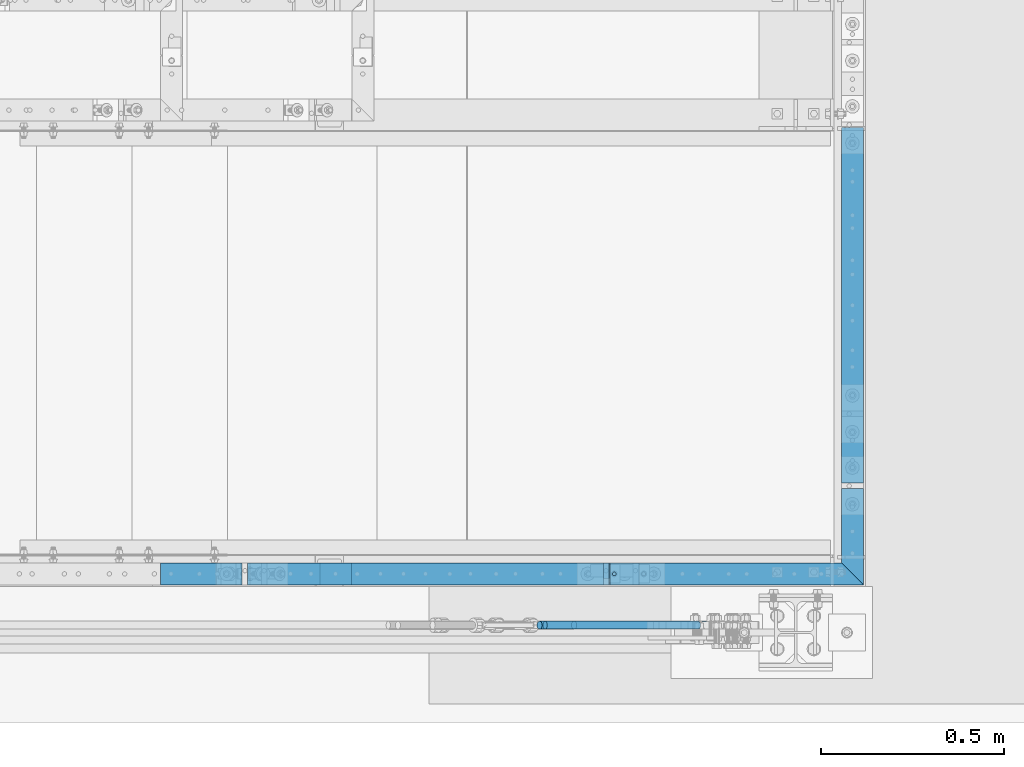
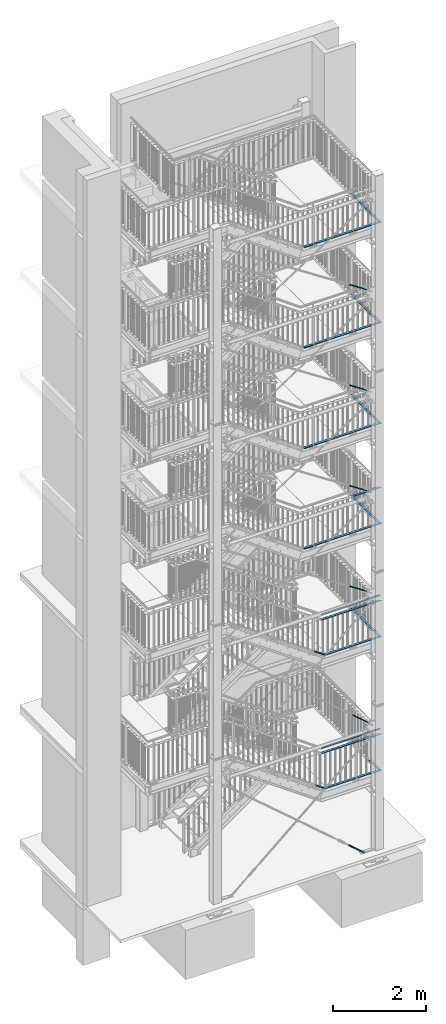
# One storey, part 138 of 821: 36 beams, 8 members, 27 openings.
"""IFC2X3 building model written with IfcOpenShell, lengths in millimetres."""

from ifc_helpers import new_model, entity, si_unit, converted_unit, frame, origin, origin_with_axes, origin_2d, origin_2d_with_axis, place, context, project, spatial, polyline, rectangle, circle, hollow_circle, outline, extrude, clip, halfspace, material, element, save


model = new_model("IFC2X3")

# Units and contexts
model_context = context("Model", 3, precision=1e-09, world=origin_with_axes())
ifc_project = project(units=[si_unit("LENGTHUNIT", "METRE", prefix="MILLI"), si_unit("AREAUNIT", "SQUARE_METRE"), si_unit("VOLUMEUNIT", "CUBIC_METRE"), converted_unit("PLANEANGLEUNIT", "DEGREE", entity("IfcPlaneAngleMeasure", 0.01745329), si_unit("PLANEANGLEUNIT", "RADIAN"), dimensions=[0, 0, 0, 0, 0, 0, 0])], contexts=[model_context])

# Site, building, storey
site_placement = place(None, origin_with_axes())
site = spatial("IfcSite", under=ifc_project, at=site_placement, Name="Cnopf'sche Kinderklinik", CompositionType="ELEMENT")
building_placement = place(site_placement, origin_with_axes())
building = spatial("IfcBuilding", under=site, at=building_placement, Name="Struktur 1", CompositionType="ELEMENT")
storey_placement = place(building_placement, origin_with_axes())
storey = spatial("IfcBuildingStorey", under=building, at=storey_placement, Name="Default Storey", CompositionType="ELEMENT", Elevation=0.0)

# Beam, opening
ifc_material = material(Name="S235JR")
beam_1_placement = place(None, frame((9064.725029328, 4526.736971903, 3194.8526312), z_axis=(1.0, 0.0, 0.0), x_axis=(0.0, 0.0, -1.0)))
beam_1 = element("IfcBeam", 1, at=beam_1_placement, inside=storey, material=ifc_material, Name="Railing_Kneerail_Landing#10", ObjectType="Railing_Kneerail_Landing#10", context=model_context, shape_type="Clipping", body=[
    clip(extrude(rectangle(XDim=10.0, YDim=60.0, at=origin_2d()), origin(), (0.0, 0.0, -1.0), 624.05092), halfspace(frame((3194.8526312, 2247.487508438, -2290.500548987), z_axis=(0.0, -0.707106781, -0.707106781), x_axis=(0.0, -0.707106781, 0.707106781)), True)),
])
opening_1_placement = place(beam_1_placement, frame((5.5, 0.0, -612.050920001), z_axis=(-1.0, 0.0, 0.0), x_axis=(0.0, 0.0, 1.0)))
element("IfcOpeningElement", 2, at=opening_1_placement, cuts=beam_1, ObjectType="Opening", context=model_context, shape_type="SweptSolid", body=[
    extrude(circle(Radius=5.001, at=origin_2d_with_axis()), origin(), (0.0, 0.0, 1.0), 11.0),
])

# Members
for number, where, z_axis, x_axis in (
    (3, (8547.510615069, 4386.736971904, 334.785043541), (-0.757867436, 0.0, 0.652408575), (-0.652408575, 0.0, -0.757867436)),
    (4, (8640.321727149, 4386.736971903, 3708.074383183), (-0.755906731, 0.0, 0.654679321), (-0.654679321, 0.0, -0.755906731)),
    (5, (8601.628734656, 4386.736971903, 7158.990731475), (-0.83600607, 0.0, 0.548720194), (-0.548720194, 0.0, -0.83600607)),
    (6, (8601.507201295, 4386.736971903, 9790.805366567), (-0.836491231, 0.0, 0.547980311), (-0.547980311, 0.0, -0.836491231)),
    (7, (8601.719606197, 4386.736971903, 12418.129336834), (-0.835719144, 0.0, 0.549157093), (-0.549157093, 0.0, -0.835719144)),
    (8, (8601.264681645, 4386.736971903, 15052.435320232), (-0.837153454, 0.0, 0.546968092), (-0.546968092, 0.0, -0.837153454)),
):
    element("IfcMember", number, at=place(None, frame(where, z_axis=z_axis, x_axis=x_axis)), inside=storey, material=ifc_material, Name="-", ObjectType="-", context=model_context, shape_type="SweptSolid", body=[
        extrude(circle(Radius=11.0, at=origin_2d()), origin(), (0.0, 0.0, 1.0), 500.0),
    ])

# Beam
beam_2_placement = place(None, frame((9021.713402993, 4955.774795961, 2246.0526312), z_axis=(0.0, 1.0, 0.0), x_axis=(0.0, 0.0, -1.0)))
element("IfcBeam", 9, at=beam_2_placement, inside=storey, material=ifc_material, Name="Railing_Kneerail_Landing#9", ObjectType="Railing_Kneerail_Landing#9", context=model_context, shape_type="Clipping", body=[
    clip(extrude(rectangle(XDim=10.0, YDim=60.0, at=origin_2d()), origin(), (0.0, 0.0, -1.0), 472.049450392), halfspace(frame((2246.0526312, 2247.487508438, 1818.451098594), z_axis=(0.0, -0.707106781, 0.707106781), x_axis=(0.0, 0.707106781, 0.707106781)), True)),
])

# Beam, opening
beam_3_placement = place(None, frame((9064.725029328, 4526.736971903, 2246.0526312), z_axis=(1.0, 0.0, 0.0), x_axis=(0.0, 0.0, -1.0)))
beam_3 = element("IfcBeam", 10, at=beam_3_placement, inside=storey, material=ifc_material, Name="Railing_Kneerail_Landing#10", ObjectType="Railing_Kneerail_Landing#10", context=model_context, shape_type="Clipping", body=[
    clip(extrude(rectangle(XDim=10.0, YDim=60.0, at=origin_2d()), origin(), (0.0, 0.0, -1.0), 624.05092), halfspace(frame((2246.0526312, 2247.487508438, -2290.500548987), z_axis=(0.0, -0.707106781, -0.707106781), x_axis=(0.0, -0.707106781, 0.707106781)), True)),
])
opening_2_placement = place(beam_3_placement, frame((5.5, 0.0, -612.050920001), z_axis=(-1.0, 0.0, 0.0), x_axis=(0.0, 0.0, 1.0)))
element("IfcOpeningElement", 11, at=opening_2_placement, cuts=beam_3, ObjectType="Opening", context=model_context, shape_type="SweptSolid", body=[
    extrude(circle(Radius=5.001, at=origin_2d_with_axis()), origin(), (0.0, 0.0, 1.0), 11.0),
])

# Beam
beam_4_placement = place(None, frame((8422.674109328, 4526.736971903, 2246.0526312), z_axis=(1.0, 0.0, 0.0), x_axis=(0.0, 0.0, -1.0)))
element("IfcBeam", 12, at=beam_4_placement, inside=storey, material=ifc_material, Name="Railing_Kneerail_Landing#11", ObjectType="Railing_Kneerail_Landing#11", context=model_context, shape_type="SweptSolid", body=[
    extrude(rectangle(XDim=10.0, YDim=60.0, at=origin_2d()), origin(), (0.0, 0.0, -1.0), 767.403817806),
])

# Member
member_1_placement = place(None, frame((7652.370421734, 4526.736971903, 2246.979456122), z_axis=(0.814635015, 0.0, -0.579973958), x_axis=(-0.579973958, 0.0, -0.814635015)))
element("IfcMember", 13, at=member_1_placement, inside=storey, material=ifc_material, Name="Railing_Kneerail_Stair#12", ObjectType="Railing_Kneerail_Stair#12", context=model_context, shape_type="SweptSolid", body=[
    extrude(rectangle(XDim=10.0, YDim=60.0, at=origin_2d()), origin(), (0.0, 0.0, -1.0), 276.042099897),
])

# Beam, openings
beam_5_placement = place(None, frame((9021.713402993, 5751.736114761, 5739.8947367), z_axis=(0.0, 1.0, 0.0), x_axis=(0.0, 0.0, -1.0)))
beam_5 = element("IfcBeam", 14, at=beam_5_placement, inside=storey, material=ifc_material, Name="Railing_Kneerail_Landing#10", ObjectType="Railing_Kneerail_Landing#10", context=model_context, shape_type="SweptSolid", body=[
    extrude(rectangle(XDim=10.0, YDim=60.0, at=origin_2d()), origin(), (0.0, 0.0, -1.0), 985.000142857),
])
opening_3_placement = place(beam_5_placement, frame((60.0, 0.0, -985.000142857), z_axis=(-1.0, 0.0, 0.0), x_axis=(0.0, -1.0, 0.0)))
element("IfcOpeningElement", 15, at=opening_3_placement, cuts=beam_5, ObjectType="Opening", context=model_context, shape_type="SweptSolid", body=[
    extrude(outline(polyline([(-30.001, 977.499142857), (30.001, 977.499142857), (30.001, 992.501142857), (-30.001, 992.501142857), (-30.001, 977.499142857)])), origin(), (0.0, 0.0, 1.0), 120.0),
])
opening_4_placement = place(beam_5_placement, frame((60.0, 0.0, -985.000142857), z_axis=(-1.0, 0.0, 0.0), x_axis=(0.0, -1.0, 0.0)))
element("IfcOpeningElement", 16, at=opening_4_placement, cuts=beam_5, ObjectType="Opening", context=model_context, shape_type="SweptSolid", body=[
    extrude(outline(polyline([(-30.001, -7.501), (30.001, -7.501), (30.001, 7.501), (-30.001, 7.501), (-30.001, -7.501)])), origin(), (0.0, 0.0, 1.0), 120.0),
])

# Beam
beam_6_placement = place(None, frame((9021.713402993, 4759.235971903, 5739.8947367), z_axis=(0.0, 1.0, 0.0), x_axis=(0.0, 0.0, -1.0)))
element("IfcBeam", 17, at=beam_6_placement, inside=storey, material=ifc_material, Name="Railing_Kneerail_Landing#11", ObjectType="Railing_Kneerail_Landing#11", context=model_context, shape_type="Clipping", body=[
    clip(extrude(rectangle(XDim=10.0, YDim=60.0, at=origin_2d()), origin(), (0.0, 0.0, -1.0), 275.510626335), halfspace(frame((5739.8947367, 2247.487508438, 2014.989922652), z_axis=(0.0, -0.707106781, 0.707106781), x_axis=(0.0, 0.707106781, 0.707106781)), True)),
])

# Beam, opening
beam_7_placement = place(None, frame((9064.725029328, 4526.736971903, 5739.8947367), z_axis=(1.0, 0.0, 0.0), x_axis=(0.0, 0.0, -1.0)))
beam_7 = element("IfcBeam", 18, at=beam_7_placement, inside=storey, material=ifc_material, Name="Railing_Kneerail_Landing#12", ObjectType="Railing_Kneerail_Landing#12", context=model_context, shape_type="Clipping", body=[
    clip(extrude(rectangle(XDim=10.0, YDim=60.0, at=origin_2d()), origin(), (0.0, 0.0, -1.0), 704.432769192), halfspace(frame((5739.8947367, 2247.487508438, -2290.500548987), z_axis=(0.0, -0.707106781, -0.707106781), x_axis=(0.0, -0.707106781, 0.707106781)), True)),
])
opening_5_placement = place(beam_7_placement, frame((5.5, 0.0, -692.432769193), z_axis=(-1.0, 0.0, 0.0), x_axis=(0.0, 0.0, 1.0)))
element("IfcOpeningElement", 19, at=opening_5_placement, cuts=beam_7, ObjectType="Opening", context=model_context, shape_type="SweptSolid", body=[
    extrude(circle(Radius=5.001, at=origin_2d_with_axis()), origin(), (0.0, 0.0, 1.0), 11.0),
])

# Beam
beam_8_placement = place(None, frame((8342.292260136, 4526.736971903, 5739.8947367), z_axis=(1.0, 0.0, 0.0), x_axis=(0.0, 0.0, -1.0)))
element("IfcBeam", 20, at=beam_8_placement, inside=storey, material=ifc_material, Name="Railing_Kneerail_Landing#13", ObjectType="Railing_Kneerail_Landing#13", context=model_context, shape_type="SweptSolid", body=[
    extrude(rectangle(XDim=10.0, YDim=60.0, at=origin_2d()), origin(), (0.0, 0.0, -1.0), 686.538919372),
])

# Member
member_2_placement = place(None, frame((7652.877699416, 4526.736971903, 5740.804420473), z_axis=(0.818063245, 0.0, -0.57512827), x_axis=(-0.57512827, 0.0, -0.818063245)))
element("IfcMember", 21, at=member_2_placement, inside=storey, material=ifc_material, Name="Railing_Kneerail_Stair#14", ObjectType="Railing_Kneerail_Stair#14", context=model_context, shape_type="SweptSolid", body=[
    extrude(rectangle(XDim=10.0, YDim=60.0, at=origin_2d()), origin(), (0.0, 0.0, -1.0), 339.472458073),
])

# Beam, openings
beam_9_placement = place(None, frame((9021.713402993, 5751.736114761, 8701.0), z_axis=(0.0, 1.0, 0.0), x_axis=(0.0, 0.0, -1.0)))
beam_9 = element("IfcBeam", 22, at=beam_9_placement, inside=storey, material=ifc_material, Name="Railing_Kneerail_Landing#10", ObjectType="Railing_Kneerail_Landing#10", context=model_context, shape_type="SweptSolid", body=[
    extrude(rectangle(XDim=10.0, YDim=60.0, at=origin_2d()), origin(), (0.0, 0.0, -1.0), 985.000142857),
])
opening_6_placement = place(beam_9_placement, frame((60.0, 0.0, -985.000142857), z_axis=(-1.0, 0.0, 0.0), x_axis=(0.0, -1.0, 0.0)))
element("IfcOpeningElement", 23, at=opening_6_placement, cuts=beam_9, ObjectType="Opening", context=model_context, shape_type="SweptSolid", body=[
    extrude(outline(polyline([(-30.001, 977.499142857), (30.001, 977.499142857), (30.001, 992.501142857), (-30.001, 992.501142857), (-30.001, 977.499142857)])), origin(), (0.0, 0.0, 1.0), 120.0),
])
opening_7_placement = place(beam_9_placement, frame((60.0, 0.0, -985.000142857), z_axis=(-1.0, 0.0, 0.0), x_axis=(0.0, -1.0, 0.0)))
element("IfcOpeningElement", 24, at=opening_7_placement, cuts=beam_9, ObjectType="Opening", context=model_context, shape_type="SweptSolid", body=[
    extrude(outline(polyline([(-30.001, -7.501), (30.001, -7.501), (30.001, 7.501), (-30.001, 7.501), (-30.001, -7.501)])), origin(), (0.0, 0.0, 1.0), 120.0),
])

# Beam
beam_10_placement = place(None, frame((9021.713402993, 4759.235971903, 8701.0), z_axis=(0.0, 1.0, 0.0), x_axis=(0.0, 0.0, -1.0)))
element("IfcBeam", 25, at=beam_10_placement, inside=storey, material=ifc_material, Name="Railing_Kneerail_Landing#11", ObjectType="Railing_Kneerail_Landing#11", context=model_context, shape_type="Clipping", body=[
    clip(extrude(rectangle(XDim=10.0, YDim=60.0, at=origin_2d()), origin(), (0.0, 0.0, -1.0), 275.510626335), halfspace(frame((8701.0, 2247.487508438, 2014.989922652), z_axis=(0.0, -0.707106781, 0.707106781), x_axis=(0.0, 0.707106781, 0.707106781)), True)),
])

# Beam, opening
beam_11_placement = place(None, frame((9064.725029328, 4526.736971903, 8701.0), z_axis=(1.0, 0.0, 0.0), x_axis=(0.0, 0.0, -1.0)))
beam_11 = element("IfcBeam", 26, at=beam_11_placement, inside=storey, material=ifc_material, Name="Railing_Kneerail_Landing#12", ObjectType="Railing_Kneerail_Landing#12", context=model_context, shape_type="Clipping", body=[
    clip(extrude(rectangle(XDim=10.0, YDim=60.0, at=origin_2d()), origin(), (0.0, 0.0, -1.0), 704.432769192), halfspace(frame((8701.0, 2247.487508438, -2290.500548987), z_axis=(0.0, -0.707106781, -0.707106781), x_axis=(0.0, -0.707106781, 0.707106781)), True)),
])
opening_8_placement = place(beam_11_placement, frame((5.5, 0.0, -692.432769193), z_axis=(-1.0, 0.0, 0.0), x_axis=(0.0, 0.0, 1.0)))
element("IfcOpeningElement", 27, at=opening_8_placement, cuts=beam_11, ObjectType="Opening", context=model_context, shape_type="SweptSolid", body=[
    extrude(circle(Radius=5.001, at=origin_2d_with_axis()), origin(), (0.0, 0.0, 1.0), 11.0),
])

# Beam, openings
beam_12_placement = place(None, frame((8349.792260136, 4526.736971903, 8701.0), z_axis=(1.0, 0.0, 0.0), x_axis=(0.0, 0.0, -1.0)))
beam_12 = element("IfcBeam", 28, at=beam_12_placement, inside=storey, material=ifc_material, Name="Railing_Kneerail_Landing#13", ObjectType="Railing_Kneerail_Landing#13", context=model_context, shape_type="SweptSolid", body=[
    extrude(rectangle(XDim=10.0, YDim=60.0, at=origin_2d()), origin(), (0.0, 0.0, -1.0), 985.000142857),
])
opening_9_placement = place(beam_12_placement, frame((60.0, 0.0, -985.000142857), z_axis=(-1.0, 0.0, 0.0), x_axis=(0.0, 0.0, 1.0)))
element("IfcOpeningElement", 29, at=opening_9_placement, cuts=beam_12, ObjectType="Opening", context=model_context, shape_type="SweptSolid", body=[
    extrude(outline(polyline([(977.499142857, 30.001), (977.499142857, -30.001), (992.501142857, -30.001), (992.501142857, 30.001), (977.499142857, 30.001)])), origin(), (0.0, 0.0, 1.0), 120.0),
])
opening_10_placement = place(beam_12_placement, frame((60.0, 0.0, -985.000142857), z_axis=(-1.0, 0.0, 0.0), x_axis=(0.0, 0.0, 1.0)))
element("IfcOpeningElement", 30, at=opening_10_placement, cuts=beam_12, ObjectType="Opening", context=model_context, shape_type="SweptSolid", body=[
    extrude(outline(polyline([(-7.501, 30.001), (-7.501, -30.001), (7.501, -30.001), (7.501, 30.001), (-7.501, 30.001)])), origin(), (0.0, 0.0, 1.0), 120.0),
])

# Beam
beam_13_placement = place(None, frame((7357.292117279, 4526.736971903, 8701.0), z_axis=(1.0, 0.0, 0.0), x_axis=(0.0, 0.0, -1.0)))
element("IfcBeam", 31, at=beam_13_placement, inside=storey, material=ifc_material, Name="Railing_Kneerail_Landing#14", ObjectType="Railing_Kneerail_Landing#14", context=model_context, shape_type="SweptSolid", body=[
    extrude(rectangle(XDim=10.0, YDim=60.0, at=origin_2d()), origin(), (0.0, 0.0, -1.0), 222.603069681),
])

# Beam, openings
beam_14_placement = place(None, frame((9021.713402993, 5751.736114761, 11330.5000003), z_axis=(0.0, 1.0, 0.0), x_axis=(0.0, 0.0, -1.0)))
beam_14 = element("IfcBeam", 32, at=beam_14_placement, inside=storey, material=ifc_material, Name="Railing_Kneerail_Landing#10", ObjectType="Railing_Kneerail_Landing#10", context=model_context, shape_type="SweptSolid", body=[
    extrude(rectangle(XDim=10.0, YDim=60.0, at=origin_2d()), origin(), (0.0, 0.0, -1.0), 985.000142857),
])
opening_11_placement = place(beam_14_placement, frame((60.0, 0.0, -985.000142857), z_axis=(-1.0, 0.0, 0.0), x_axis=(0.0, -1.0, 0.0)))
element("IfcOpeningElement", 33, at=opening_11_placement, cuts=beam_14, ObjectType="Opening", context=model_context, shape_type="SweptSolid", body=[
    extrude(outline(polyline([(-30.001, 977.499142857), (30.001, 977.499142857), (30.001, 992.501142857), (-30.001, 992.501142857), (-30.001, 977.499142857)])), origin(), (0.0, 0.0, 1.0), 120.0),
])
opening_12_placement = place(beam_14_placement, frame((60.0, 0.0, -985.000142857), z_axis=(-1.0, 0.0, 0.0), x_axis=(0.0, -1.0, 0.0)))
element("IfcOpeningElement", 34, at=opening_12_placement, cuts=beam_14, ObjectType="Opening", context=model_context, shape_type="SweptSolid", body=[
    extrude(outline(polyline([(-30.001, -7.501), (30.001, -7.501), (30.001, 7.501), (-30.001, 7.501), (-30.001, -7.501)])), origin(), (0.0, 0.0, 1.0), 120.0),
])

# Beam
beam_15_placement = place(None, frame((9021.713402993, 4759.235971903, 11330.5000003), z_axis=(0.0, 1.0, 0.0), x_axis=(0.0, 0.0, -1.0)))
element("IfcBeam", 35, at=beam_15_placement, inside=storey, material=ifc_material, Name="Railing_Kneerail_Landing#11", ObjectType="Railing_Kneerail_Landing#11", context=model_context, shape_type="Clipping", body=[
    clip(extrude(rectangle(XDim=10.0, YDim=60.0, at=origin_2d()), origin(), (0.0, 0.0, -1.0), 275.510626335), halfspace(frame((11330.5000003, 2247.487508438, 2014.989922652), z_axis=(0.0, -0.707106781, 0.707106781), x_axis=(0.0, 0.707106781, 0.707106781)), True)),
])

# Beam, opening
beam_16_placement = place(None, frame((9064.725029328, 4526.736971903, 11330.5000003), z_axis=(1.0, 0.0, 0.0), x_axis=(0.0, 0.0, -1.0)))
beam_16 = element("IfcBeam", 36, at=beam_16_placement, inside=storey, material=ifc_material, Name="Railing_Kneerail_Landing#12", ObjectType="Railing_Kneerail_Landing#12", context=model_context, shape_type="Clipping", body=[
    clip(extrude(rectangle(XDim=10.0, YDim=60.0, at=origin_2d()), origin(), (0.0, 0.0, -1.0), 704.432769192), halfspace(frame((11330.5000003, 2247.487508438, -2290.500548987), z_axis=(0.0, -0.707106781, -0.707106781), x_axis=(0.0, -0.707106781, 0.707106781)), True)),
])
opening_13_placement = place(beam_16_placement, frame((5.5, 0.0, -692.432769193), z_axis=(-1.0, 0.0, 0.0), x_axis=(0.0, 0.0, 1.0)))
element("IfcOpeningElement", 37, at=opening_13_placement, cuts=beam_16, ObjectType="Opening", context=model_context, shape_type="SweptSolid", body=[
    extrude(circle(Radius=5.001, at=origin_2d_with_axis()), origin(), (0.0, 0.0, 1.0), 11.0),
])

# Beam, openings
beam_17_placement = place(None, frame((8349.792260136, 4526.736971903, 11330.5000003), z_axis=(1.0, 0.0, 0.0), x_axis=(0.0, 0.0, -1.0)))
beam_17 = element("IfcBeam", 38, at=beam_17_placement, inside=storey, material=ifc_material, Name="Railing_Kneerail_Landing#13", ObjectType="Railing_Kneerail_Landing#13", context=model_context, shape_type="SweptSolid", body=[
    extrude(rectangle(XDim=10.0, YDim=60.0, at=origin_2d()), origin(), (0.0, 0.0, -1.0), 985.000142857),
])
opening_14_placement = place(beam_17_placement, frame((60.0, 0.0, -985.000142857), z_axis=(-1.0, 0.0, 0.0), x_axis=(0.0, 0.0, 1.0)))
element("IfcOpeningElement", 39, at=opening_14_placement, cuts=beam_17, ObjectType="Opening", context=model_context, shape_type="SweptSolid", body=[
    extrude(outline(polyline([(977.499142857, 30.001), (977.499142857, -30.001), (992.501142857, -30.001), (992.501142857, 30.001), (977.499142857, 30.001)])), origin(), (0.0, 0.0, 1.0), 120.0),
])
opening_15_placement = place(beam_17_placement, frame((60.0, 0.0, -985.000142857), z_axis=(-1.0, 0.0, 0.0), x_axis=(0.0, 0.0, 1.0)))
element("IfcOpeningElement", 40, at=opening_15_placement, cuts=beam_17, ObjectType="Opening", context=model_context, shape_type="SweptSolid", body=[
    extrude(outline(polyline([(-7.501, 30.001), (-7.501, -30.001), (7.501, -30.001), (7.501, 30.001), (-7.501, 30.001)])), origin(), (0.0, 0.0, 1.0), 120.0),
])

# Beam
beam_18_placement = place(None, frame((7357.292117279, 4526.736971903, 11330.5000003), z_axis=(1.0, 0.0, 0.0), x_axis=(0.0, 0.0, -1.0)))
element("IfcBeam", 41, at=beam_18_placement, inside=storey, material=ifc_material, Name="Railing_Kneerail_Landing#14", ObjectType="Railing_Kneerail_Landing#14", context=model_context, shape_type="SweptSolid", body=[
    extrude(rectangle(XDim=10.0, YDim=60.0, at=origin_2d()), origin(), (0.0, 0.0, -1.0), 222.532675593),
])

# Beam, openings
beam_19_placement = place(None, frame((9021.713402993, 5751.73611476, 13961.5000001), z_axis=(0.0, 1.0, 0.0), x_axis=(0.0, 0.0, -1.0)))
beam_19 = element("IfcBeam", 42, at=beam_19_placement, inside=storey, material=ifc_material, Name="Railing_Kneerail_Landing#10", ObjectType="Railing_Kneerail_Landing#10", context=model_context, shape_type="SweptSolid", body=[
    extrude(rectangle(XDim=10.0, YDim=60.0, at=origin_2d()), origin(), (0.0, 0.0, -1.0), 985.000142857),
])
opening_16_placement = place(beam_19_placement, frame((60.0, 0.0, -985.000142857), z_axis=(-1.0, 0.0, 0.0), x_axis=(0.0, -1.0, 0.0)))
element("IfcOpeningElement", 43, at=opening_16_placement, cuts=beam_19, ObjectType="Opening", context=model_context, shape_type="SweptSolid", body=[
    extrude(outline(polyline([(-30.001, 977.499142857), (30.001, 977.499142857), (30.001, 992.501142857), (-30.001, 992.501142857), (-30.001, 977.499142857)])), origin(), (0.0, 0.0, 1.0), 120.0),
])
opening_17_placement = place(beam_19_placement, frame((60.0, 0.0, -985.000142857), z_axis=(-1.0, 0.0, 0.0), x_axis=(0.0, -1.0, 0.0)))
element("IfcOpeningElement", 44, at=opening_17_placement, cuts=beam_19, ObjectType="Opening", context=model_context, shape_type="SweptSolid", body=[
    extrude(outline(polyline([(-30.001, -7.501), (30.001, -7.501), (30.001, 7.501), (-30.001, 7.501), (-30.001, -7.501)])), origin(), (0.0, 0.0, 1.0), 120.0),
])

# Beam
beam_20_placement = place(None, frame((9021.713402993, 4759.235971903, 13961.5000001), z_axis=(0.0, 1.0, 0.0), x_axis=(0.0, 0.0, -1.0)))
element("IfcBeam", 45, at=beam_20_placement, inside=storey, material=ifc_material, Name="Railing_Kneerail_Landing#11", ObjectType="Railing_Kneerail_Landing#11", context=model_context, shape_type="Clipping", body=[
    clip(extrude(rectangle(XDim=10.0, YDim=60.0, at=origin_2d()), origin(), (0.0, 0.0, -1.0), 275.510626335), halfspace(frame((13961.5000001, 2247.487508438, 2014.989922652), z_axis=(0.0, -0.707106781, 0.707106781), x_axis=(0.0, 0.707106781, 0.707106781)), True)),
])

# Beam, opening
beam_21_placement = place(None, frame((9064.725029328, 4526.736971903, 13961.5000001), z_axis=(1.0, 0.0, 0.0), x_axis=(0.0, 0.0, -1.0)))
beam_21 = element("IfcBeam", 46, at=beam_21_placement, inside=storey, material=ifc_material, Name="Railing_Kneerail_Landing#12", ObjectType="Railing_Kneerail_Landing#12", context=model_context, shape_type="Clipping", body=[
    clip(extrude(rectangle(XDim=10.0, YDim=60.0, at=origin_2d()), origin(), (0.0, 0.0, -1.0), 704.432769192), halfspace(frame((13961.5000001, 2247.487508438, -2290.500548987), z_axis=(0.0, -0.707106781, -0.707106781), x_axis=(0.0, -0.707106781, 0.707106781)), True)),
])
opening_18_placement = place(beam_21_placement, frame((5.5, 0.0, -692.432769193), z_axis=(-1.0, 0.0, 0.0), x_axis=(0.0, 0.0, 1.0)))
element("IfcOpeningElement", 47, at=opening_18_placement, cuts=beam_21, ObjectType="Opening", context=model_context, shape_type="SweptSolid", body=[
    extrude(circle(Radius=5.001, at=origin_2d_with_axis()), origin(), (0.0, 0.0, 1.0), 11.0),
])

# Beam, openings
beam_22_placement = place(None, frame((8349.792260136, 4526.736971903, 13961.5000001), z_axis=(1.0, 0.0, 0.0), x_axis=(0.0, 0.0, -1.0)))
beam_22 = element("IfcBeam", 48, at=beam_22_placement, inside=storey, material=ifc_material, Name="Railing_Kneerail_Landing#13", ObjectType="Railing_Kneerail_Landing#13", context=model_context, shape_type="SweptSolid", body=[
    extrude(rectangle(XDim=10.0, YDim=60.0, at=origin_2d()), origin(), (0.0, 0.0, -1.0), 985.000142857),
])
opening_19_placement = place(beam_22_placement, frame((60.0, 0.0, -985.000142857), z_axis=(-1.0, 0.0, 0.0), x_axis=(0.0, 0.0, 1.0)))
element("IfcOpeningElement", 49, at=opening_19_placement, cuts=beam_22, ObjectType="Opening", context=model_context, shape_type="SweptSolid", body=[
    extrude(outline(polyline([(977.499142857, 30.001), (977.499142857, -30.001), (992.501142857, -30.001), (992.501142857, 30.001), (977.499142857, 30.001)])), origin(), (0.0, 0.0, 1.0), 120.0),
])
opening_20_placement = place(beam_22_placement, frame((60.0, 0.0, -985.000142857), z_axis=(-1.0, 0.0, 0.0), x_axis=(0.0, 0.0, 1.0)))
element("IfcOpeningElement", 50, at=opening_20_placement, cuts=beam_22, ObjectType="Opening", context=model_context, shape_type="SweptSolid", body=[
    extrude(outline(polyline([(-7.501, 30.001), (-7.501, -30.001), (7.501, -30.001), (7.501, 30.001), (-7.501, 30.001)])), origin(), (0.0, 0.0, 1.0), 120.0),
])

# Beam
beam_23_placement = place(None, frame((7357.292117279, 4526.736971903, 13961.5000001), z_axis=(1.0, 0.0, 0.0), x_axis=(0.0, 0.0, -1.0)))
element("IfcBeam", 51, at=beam_23_placement, inside=storey, material=ifc_material, Name="Railing_Kneerail_Landing#14", ObjectType="Railing_Kneerail_Landing#14", context=model_context, shape_type="SweptSolid", body=[
    extrude(rectangle(XDim=10.0, YDim=60.0, at=origin_2d()), origin(), (0.0, 0.0, -1.0), 222.645131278),
])

# Beam, openings
beam_24_placement = place(None, frame((9021.713402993, 5751.736114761, 16589.0000003), z_axis=(0.0, 1.0, 0.0), x_axis=(0.0, 0.0, -1.0)))
beam_24 = element("IfcBeam", 52, at=beam_24_placement, inside=storey, material=ifc_material, Name="Railing_Kneerail_Landing#10", ObjectType="Railing_Kneerail_Landing#10", context=model_context, shape_type="SweptSolid", body=[
    extrude(rectangle(XDim=10.0, YDim=60.0, at=origin_2d()), origin(), (0.0, 0.0, -1.0), 985.000142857),
])
opening_21_placement = place(beam_24_placement, frame((60.0, 0.0, -985.000142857), z_axis=(-1.0, 0.0, 0.0), x_axis=(0.0, -1.0, 0.0)))
element("IfcOpeningElement", 53, at=opening_21_placement, cuts=beam_24, ObjectType="Opening", context=model_context, shape_type="SweptSolid", body=[
    extrude(outline(polyline([(-30.001, 977.499142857), (30.001, 977.499142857), (30.001, 992.501142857), (-30.001, 992.501142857), (-30.001, 977.499142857)])), origin(), (0.0, 0.0, 1.0), 120.0),
])
opening_22_placement = place(beam_24_placement, frame((60.0, 0.0, -985.000142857), z_axis=(-1.0, 0.0, 0.0), x_axis=(0.0, -1.0, 0.0)))
element("IfcOpeningElement", 54, at=opening_22_placement, cuts=beam_24, ObjectType="Opening", context=model_context, shape_type="SweptSolid", body=[
    extrude(outline(polyline([(-30.001, -7.501), (30.001, -7.501), (30.001, 7.501), (-30.001, 7.501), (-30.001, -7.501)])), origin(), (0.0, 0.0, 1.0), 120.0),
])

# Beam
beam_25_placement = place(None, frame((9021.713402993, 4759.235971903, 16589.0000003), z_axis=(0.0, 1.0, 0.0), x_axis=(0.0, 0.0, -1.0)))
element("IfcBeam", 55, at=beam_25_placement, inside=storey, material=ifc_material, Name="Railing_Kneerail_Landing#11", ObjectType="Railing_Kneerail_Landing#11", context=model_context, shape_type="Clipping", body=[
    clip(extrude(rectangle(XDim=10.0, YDim=60.0, at=origin_2d()), origin(), (0.0, 0.0, -1.0), 275.510626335), halfspace(frame((16589.0000003, 2247.487508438, 2014.989922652), z_axis=(0.0, -0.707106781, 0.707106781), x_axis=(0.0, 0.707106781, 0.707106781)), True)),
])

# Beam, opening
beam_26_placement = place(None, frame((9064.725029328, 4526.736971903, 16589.0000003), z_axis=(1.0, 0.0, 0.0), x_axis=(0.0, 0.0, -1.0)))
beam_26 = element("IfcBeam", 56, at=beam_26_placement, inside=storey, material=ifc_material, Name="Railing_Kneerail_Landing#12", ObjectType="Railing_Kneerail_Landing#12", context=model_context, shape_type="Clipping", body=[
    clip(extrude(rectangle(XDim=10.0, YDim=60.0, at=origin_2d()), origin(), (0.0, 0.0, -1.0), 704.432769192), halfspace(frame((16589.0000003, 2247.487508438, -2290.500548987), z_axis=(0.0, -0.707106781, -0.707106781), x_axis=(0.0, -0.707106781, 0.707106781)), True)),
])
opening_23_placement = place(beam_26_placement, frame((5.5, 0.0, -692.432769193), z_axis=(-1.0, 0.0, 0.0), x_axis=(0.0, 0.0, 1.0)))
element("IfcOpeningElement", 57, at=opening_23_placement, cuts=beam_26, ObjectType="Opening", context=model_context, shape_type="SweptSolid", body=[
    extrude(circle(Radius=5.001, at=origin_2d_with_axis()), origin(), (0.0, 0.0, 1.0), 11.0),
])

# Beam, openings
beam_27_placement = place(None, frame((8349.792260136, 4526.736971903, 16589.0000003), z_axis=(1.0, 0.0, 0.0), x_axis=(0.0, 0.0, -1.0)))
beam_27 = element("IfcBeam", 58, at=beam_27_placement, inside=storey, material=ifc_material, Name="Railing_Kneerail_Landing#13", ObjectType="Railing_Kneerail_Landing#13", context=model_context, shape_type="SweptSolid", body=[
    extrude(rectangle(XDim=10.0, YDim=60.0, at=origin_2d()), origin(), (0.0, 0.0, -1.0), 985.000142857),
])
opening_24_placement = place(beam_27_placement, frame((60.0, 0.0, -985.000142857), z_axis=(-1.0, 0.0, 0.0), x_axis=(0.0, 0.0, 1.0)))
element("IfcOpeningElement", 59, at=opening_24_placement, cuts=beam_27, ObjectType="Opening", context=model_context, shape_type="SweptSolid", body=[
    extrude(outline(polyline([(977.499142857, 30.001), (977.499142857, -30.001), (992.501142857, -30.001), (992.501142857, 30.001), (977.499142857, 30.001)])), origin(), (0.0, 0.0, 1.0), 120.0),
])
opening_25_placement = place(beam_27_placement, frame((60.0, 0.0, -985.000142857), z_axis=(-1.0, 0.0, 0.0), x_axis=(0.0, 0.0, 1.0)))
element("IfcOpeningElement", 60, at=opening_25_placement, cuts=beam_27, ObjectType="Opening", context=model_context, shape_type="SweptSolid", body=[
    extrude(outline(polyline([(-7.501, 30.001), (-7.501, -30.001), (7.501, -30.001), (7.501, 30.001), (-7.501, 30.001)])), origin(), (0.0, 0.0, 1.0), 120.0),
])

# Beams
beam_28_placement = place(None, frame((7357.292117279, 4526.736971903, 16589.0000003), z_axis=(1.0, 0.0, 0.0), x_axis=(0.0, 0.0, -1.0)))
element("IfcBeam", 61, at=beam_28_placement, inside=storey, material=ifc_material, Name="Railing_Kneerail_Landing#14", ObjectType="Railing_Kneerail_Landing#14", context=model_context, shape_type="SweptSolid", body=[
    extrude(rectangle(XDim=10.0, YDim=60.0, at=origin_2d()), origin(), (0.0, 0.0, -1.0), 222.43350809),
])
beam_29_placement = place(None, frame((8437.674109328, 4526.736971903, 3194.8526312), z_axis=(1.0, 0.0, 0.0), x_axis=(0.0, 0.0, -1.0)))
element("IfcBeam", 62, at=beam_29_placement, inside=storey, material=ifc_material, Name="Railing_Kneerail_Landing#1011", ObjectType="Railing_Kneerail_Landing#1011", context=model_context, shape_type="SweptSolid", body=[
    extrude(rectangle(XDim=10.0, YDim=60.0, at=origin_2d()), origin(), (0.0, 0.0, -1.0), 867.736420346),
])
beam_30_placement = place(None, frame((9055.313402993, 4535.536971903, 3321.0526312), z_axis=(1.0, 0.0, 0.0), x_axis=(0.0, 0.0, -1.0)))
element("IfcBeam", 63, at=beam_30_placement, inside=storey, material=ifc_material, Name="Railing_Handrail_Landing#5", ObjectType="Railing_Handrail_Landing#5", context=model_context, shape_type="Clipping", body=[
    clip(extrude(hollow_circle(Radius=21.2, WallThickness=3.2, at=origin_2d()), origin(), (0.0, 0.0, -1.0), 614.639293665), halfspace(frame((3321.0526312, 2238.687508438, -2281.088922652), z_axis=(0.0, -0.707106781, -0.707106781), x_axis=(0.0, -0.707106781, 0.707106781)), True)),
])
beam_31_placement = place(None, frame((8437.674109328, 4535.536971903, 3321.0526312), z_axis=(1.0, 0.0, 0.0), x_axis=(0.0, 0.0, -1.0)))
element("IfcBeam", 64, at=beam_31_placement, inside=storey, material=ifc_material, Name="Railing_Handrail_Landing#5", ObjectType="Railing_Handrail_Landing#5", context=model_context, shape_type="Clipping", body=[
    clip(extrude(hollow_circle(Radius=21.2, WallThickness=3.2, at=origin_2d()), origin(), (0.0, 0.0, -1.0), 892.436103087), halfspace(frame((5210.397729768, -4535.536971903, -2526.250453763), z_axis=(0.304437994, 0.0, 0.952532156), x_axis=(0.0, 1.0, 0.0)), True)),
])
beam_32_placement = place(None, frame((9055.313402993, 4535.536971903, 6814.8947367), z_axis=(1.0, 0.0, 0.0), x_axis=(0.0, 0.0, -1.0)))
element("IfcBeam", 65, at=beam_32_placement, inside=storey, material=ifc_material, Name="Railing_Handrail_Landing#6", ObjectType="Railing_Handrail_Landing#6", context=model_context, shape_type="Clipping", body=[
    clip(extrude(hollow_circle(Radius=21.2, WallThickness=3.2, at=origin_2d()), origin(), (0.0, 0.0, -1.0), 695.021142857), halfspace(frame((6814.8947367, 2238.687508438, -2281.088922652), z_axis=(0.0, -0.707106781, -0.707106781), x_axis=(0.0, -0.707106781, 0.707106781)), True)),
])
beam_33_placement = place(None, frame((8357.292260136, 4535.536971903, 6814.8947367), z_axis=(1.0, 0.0, 0.0), x_axis=(0.0, 0.0, -1.0)))
element("IfcBeam", 66, at=beam_33_placement, inside=storey, material=ifc_material, Name="Railing_Handrail_Landing#6", ObjectType="Railing_Handrail_Landing#6", context=model_context, shape_type="Clipping", body=[
    clip(extrude(hollow_circle(Radius=21.2, WallThickness=3.2, at=origin_2d()), origin(), (0.0, 0.0, -1.0), 812.024564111), halfspace(frame((8373.746157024, -4535.536971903, -3429.538535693), z_axis=(0.301609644, 0.0, 0.953431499), x_axis=(0.0, 1.0, 0.0)), True)),
])

# Beam, opening
beam_34_placement = place(None, frame((9064.725029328, 4526.736971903, 6688.6947367), z_axis=(1.0, 0.0, 0.0), x_axis=(0.0, 0.0, -1.0)))
beam_34 = element("IfcBeam", 67, at=beam_34_placement, inside=storey, material=ifc_material, Name="Railing_Kneerail_Landing#1012", ObjectType="Railing_Kneerail_Landing#1012", context=model_context, shape_type="Clipping", body=[
    clip(extrude(rectangle(XDim=10.0, YDim=60.0, at=origin_2d()), origin(), (0.0, 0.0, -1.0), 704.432769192), halfspace(frame((6688.6947367, 2247.487508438, -2290.500548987), z_axis=(0.0, -0.707106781, -0.707106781), x_axis=(0.0, -0.707106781, 0.707106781)), True)),
])
opening_26_placement = place(beam_34_placement, frame((5.5, 0.0, -692.432769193), z_axis=(-1.0, 0.0, 0.0), x_axis=(0.0, 0.0, 1.0)))
element("IfcOpeningElement", 68, at=opening_26_placement, cuts=beam_34, ObjectType="Opening", context=model_context, shape_type="SweptSolid", body=[
    extrude(circle(Radius=5.001, at=origin_2d_with_axis()), origin(), (0.0, 0.0, 1.0), 11.0),
])

# Beam
beam_35_placement = place(None, frame((8357.292260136, 4526.736971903, 6688.6947367), z_axis=(1.0, 0.0, 0.0), x_axis=(0.0, 0.0, -1.0)))
element("IfcBeam", 69, at=beam_35_placement, inside=storey, material=ifc_material, Name="Railing_Kneerail_Landing#1012", ObjectType="Railing_Kneerail_Landing#1012", context=model_context, shape_type="SweptSolid", body=[
    extrude(rectangle(XDim=10.0, YDim=60.0, at=origin_2d()), origin(), (0.0, 0.0, -1.0), 787.285290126),
])

# Beam, opening
beam_36_placement = place(None, frame((9064.725029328, 4526.736971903, 9649.8), z_axis=(1.0, 0.0, 0.0), x_axis=(0.0, 0.0, -1.0)))
beam_36 = element("IfcBeam", 70, at=beam_36_placement, inside=storey, material=ifc_material, Name="Railing_Kneerail_Landing#1014", ObjectType="Railing_Kneerail_Landing#1014", context=model_context, shape_type="Clipping", body=[
    clip(extrude(rectangle(XDim=10.0, YDim=60.0, at=origin_2d()), origin(), (0.0, 0.0, -1.0), 704.432769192), halfspace(frame((9649.8, 2247.487508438, -2290.500548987), z_axis=(0.0, -0.707106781, -0.707106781), x_axis=(0.0, -0.707106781, 0.707106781)), True)),
])
opening_27_placement = place(beam_36_placement, frame((5.5, 0.0, -692.432769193), z_axis=(-1.0, 0.0, 0.0), x_axis=(0.0, 0.0, 1.0)))
element("IfcOpeningElement", 71, at=opening_27_placement, cuts=beam_36, ObjectType="Opening", context=model_context, shape_type="SweptSolid", body=[
    extrude(circle(Radius=5.001, at=origin_2d_with_axis()), origin(), (0.0, 0.0, 1.0), 11.0),
])

save(model, "model.ifc")
